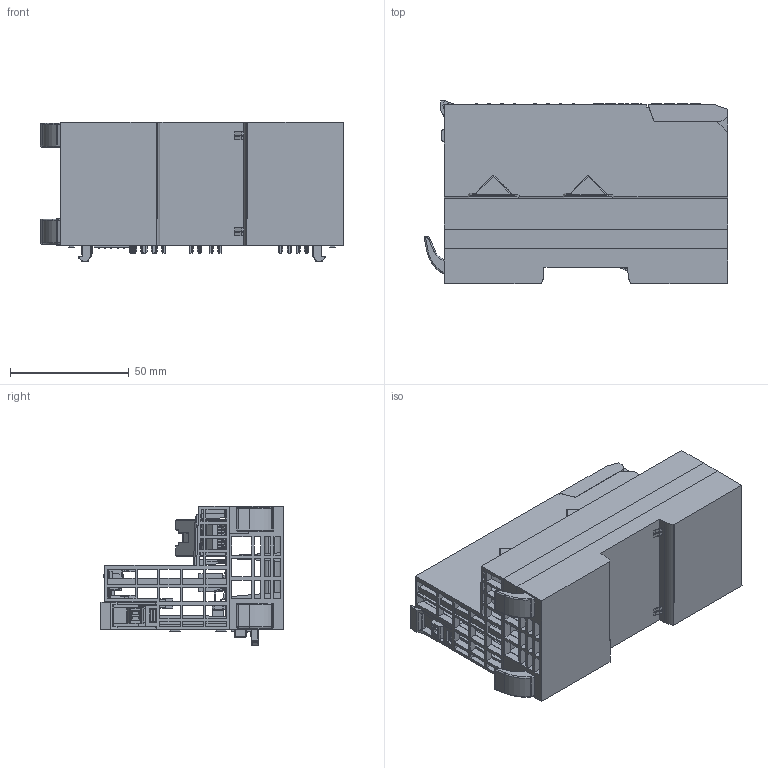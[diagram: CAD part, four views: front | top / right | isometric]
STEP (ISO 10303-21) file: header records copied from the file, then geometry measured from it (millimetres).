
FILE_DESCRIPTION(('CATIA V5R24 STEP','CAx-IF Rec.Pracs.--- Model Styling and Organization---1.2---2011-12-15'),'2;1');
FILE_NAME('\\srvde068\desktop\W007374\brandlable laser layout\Mitsubishi\SP_UR20-FBC-PN-IRT.stp','2018-05-16T11:38:44+00:00',('Weidmueller Interface'),('WI'),'CATIA Version 5-6 Release 2014 SP4 HF52','CATIA V5 STEP AP214','none');
FILE_SCHEMA(('AUTOMOTIVE_DESIGN { 1 0 10303 214 1 1 1 1 }'));
Products named in the file (13): SP_UR20-FBC-PN-IRT; SA PCB FBC; 54256_UR20_PCB_FCO_POWER; 54254_UR20_PCB_FBC_FIELDBUS_PN; 54253_UR20_PCB_FBC_CONTROLLER; 55053_UR20_FOR_FBC; SP UR20 HOUP RJ45 FBC; SP_UR20_CV_FBC; SP_UR20_PK_FBC; SP_UR20_CNFR_FBC; SP_UR20_PG1-5; SP_UR20_PG1-5_DONC; SP UR20 HOLP FBC
Assembly tree (13 placements, depth 3):
  SP_UR20-FBC-PN-IRT
    SA PCB FBC
      54256_UR20_PCB_FCO_POWER
      54254_UR20_PCB_FBC_FIELDBUS_PN
      54253_UR20_PCB_FBC_CONTROLLER
    55053_UR20_FOR_FBC
    SP UR20 HOUP RJ45 FBC
    SP_UR20_CV_FBC
    SP_UR20_PK_FBC
      SP_UR20_CNFR_FBC
      SP_UR20_PG1-5  x2
      SP_UR20_PG1-5_DONC
    SP UR20 HOLP FBC
Bounding box: 127.88 x 77.45 x 59 mm (x, y, z)
Volume: 135182.8 mm3; surface area: 146720.1 mm2
Topology: 17 solids, 26 shells, 9414 faces, 25750 edges, 16688 vertices
Faces by surface type: plane 7258, cylinder 1788, torus 218, sphere 48, revolution 48, bspline 32, cone 22
Entity records: 283375 total; most frequent: CARTESIAN_POINT 61790, ORIENTED_EDGE 49394, DIRECTION 36484, EDGE_CURVE 24708, VECTOR 20257, LINE 20257, VERTEX_POINT 16118, EDGE_LOOP 10049
